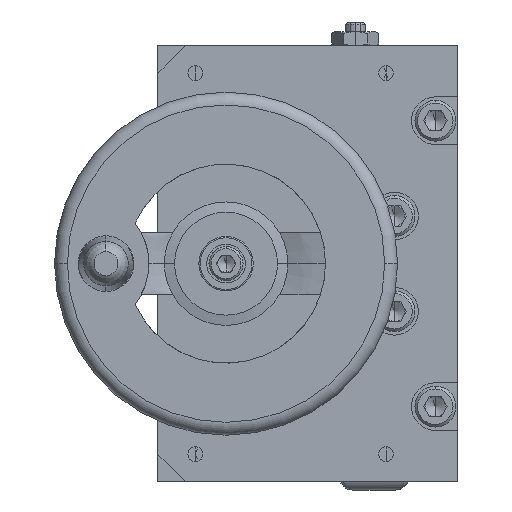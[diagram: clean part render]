
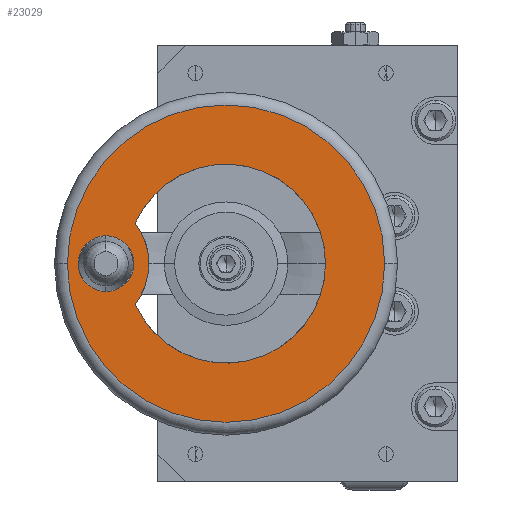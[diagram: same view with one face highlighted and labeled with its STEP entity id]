
A CAD part, left-side view. The second image highlights one B-rep face of the part: STEP entity #23029.
In plain terms, the highlighted planar face has unit normal (-1, 0, 0) as drawn and (0, 1, 0) by its records, which use the part's own axes.
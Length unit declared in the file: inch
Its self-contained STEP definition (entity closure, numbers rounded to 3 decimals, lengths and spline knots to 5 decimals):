
#1383 = VERTEX_POINT ( 'NONE', #7099 ) ;
#1420 = VERTEX_POINT ( 'NONE', #7135 ) ;
#1541 = VERTEX_POINT ( 'NONE', #7255 ) ;
#1542 = VERTEX_POINT ( 'NONE', #7256 ) ;
#1544 = VERTEX_POINT ( 'NONE', #7258 ) ;
#1548 = VERTEX_POINT ( 'NONE', #7262 ) ;
#1570 = VERTEX_POINT ( 'NONE', #7284 ) ;
#1683 = VERTEX_POINT ( 'NONE', #7397 ) ;
#3426 = AXIS2_PLACEMENT_3D ( 'NONE', #20801, #20798, #20806 ) ;
#4627 = EDGE_CURVE ( 'NONE', #1420, #1383, #5567, .T. ) ;
#4656 = EDGE_CURVE ( 'NONE', #1541, #1542, #5513, .T. ) ;
#4660 = EDGE_CURVE ( 'NONE', #1544, #1548, #5507, .T. ) ;
#4688 = EDGE_CURVE ( 'NONE', #1683, #1570, #5435, .T. ) ;
#4693 = EDGE_CURVE ( 'NONE', #1570, #1548, #5456, .T. ) ;
#4705 = EDGE_CURVE ( 'NONE', #1683, #1544, #5455, .T. ) ;
#4706 = EDGE_CURVE ( 'NONE', #1383, #1420, #5545, .T. ) ;
#4707 = EDGE_CURVE ( 'NONE', #1542, #1541, #5735, .T. ) ;
#5435 = CIRCLE ( 'NONE', #5452, 0.61417 ) ;
#5452 = AXIS2_PLACEMENT_3D ( 'NONE', #15317, #15318, #15319 ) ;
#5455 = CIRCLE ( 'NONE', #5593, 0.91339 ) ;
#5456 = CIRCLE ( 'NONE', #5465, 0.61417 ) ;
#5465 = AXIS2_PLACEMENT_3D ( 'NONE', #15332, #15333, #15334 ) ;
#5496 = AXIS2_PLACEMENT_3D ( 'NONE', #14497, #14498, #14499 ) ;
#5507 = CIRCLE ( 'NONE', #5496, 0.91339 ) ;
#5510 = AXIS2_PLACEMENT_3D ( 'NONE', #14485, #14486, #14487 ) ;
#5513 = CIRCLE ( 'NONE', #5510, 1.45669 ) ;
#5545 = CIRCLE ( 'NONE', #5734, 0.25591 ) ;
#5564 = AXIS2_PLACEMENT_3D ( 'NONE', #14369, #14370, #14371 ) ;
#5567 = CIRCLE ( 'NONE', #5564, 0.25591 ) ;
#5593 = AXIS2_PLACEMENT_3D ( 'NONE', #15387, #15388, #15389 ) ;
#5676 = AXIS2_PLACEMENT_3D ( 'NONE', #15393, #15394, #15395 ) ;
#5734 = AXIS2_PLACEMENT_3D ( 'NONE', #15390, #15391, #15392 ) ;
#5735 = CIRCLE ( 'NONE', #5676, 1.45669 ) ;
#6743 = EDGE_LOOP ( 'NONE', ( #22364, #21400 ) ) ;
#6746 = EDGE_LOOP ( 'NONE', ( #21876, #22436, #22432, #22425 ) ) ;
#6751 = EDGE_LOOP ( 'NONE', ( #21663, #21745 ) ) ;
#7099 = CARTESIAN_POINT ( 'NONE',  ( 0.25591, 1.41732, -1.10236 ) ) ;
#7135 = CARTESIAN_POINT ( 'NONE',  ( -0.25591, 1.41732, -1.10236 ) ) ;
#7255 = CARTESIAN_POINT ( 'NONE',  ( 0., 1.41732, 1.45669 ) ) ;
#7256 = CARTESIAN_POINT ( 'NONE',  ( 0., 1.41732, -1.45669 ) ) ;
#7258 = CARTESIAN_POINT ( 'NONE',  ( 0., 1.41732, 0.91339 ) ) ;
#7262 = CARTESIAN_POINT ( 'NONE',  ( 0.37205, 1.41732, -0.83418 ) ) ;
#7284 = CARTESIAN_POINT ( 'NONE',  ( 0., 1.41732, -0.70866 ) ) ;
#7397 = CARTESIAN_POINT ( 'NONE',  ( -0.37205, 1.41732, -0.83418 ) ) ;
#14369 = CARTESIAN_POINT ( 'NONE',  ( 0., 1.41732, -1.10236 ) ) ;
#14370 = DIRECTION ( 'NONE',  ( 0., 1., 0. ) ) ;
#14371 = DIRECTION ( 'NONE',  ( 0., 0., 1. ) ) ;
#14485 = CARTESIAN_POINT ( 'NONE',  ( 0., 1.41732, 0. ) ) ;
#14486 = DIRECTION ( 'NONE',  ( 0., 1., 0. ) ) ;
#14487 = DIRECTION ( 'NONE',  ( 0., 0., 1. ) ) ;
#14497 = CARTESIAN_POINT ( 'NONE',  ( 0., 1.41732, 0. ) ) ;
#14498 = DIRECTION ( 'NONE',  ( 0., 1., 0. ) ) ;
#14499 = DIRECTION ( 'NONE',  ( 0., 0., 1. ) ) ;
#15317 = CARTESIAN_POINT ( 'NONE',  ( 0., 1.41732, -1.32283 ) ) ;
#15318 = DIRECTION ( 'NONE',  ( 0., 1., 0. ) ) ;
#15319 = DIRECTION ( 'NONE',  ( 1., 0., 0. ) ) ;
#15332 = CARTESIAN_POINT ( 'NONE',  ( 0., 1.41732, -1.32283 ) ) ;
#15333 = DIRECTION ( 'NONE',  ( 0., 1., 0. ) ) ;
#15334 = DIRECTION ( 'NONE',  ( 1., 0., 0. ) ) ;
#15387 = CARTESIAN_POINT ( 'NONE',  ( 0., 1.41732, 0. ) ) ;
#15388 = DIRECTION ( 'NONE',  ( 0., 1., 0. ) ) ;
#15389 = DIRECTION ( 'NONE',  ( 0., 0., 1. ) ) ;
#15390 = CARTESIAN_POINT ( 'NONE',  ( 0., 1.41732, -1.10236 ) ) ;
#15391 = DIRECTION ( 'NONE',  ( 0., 1., 0. ) ) ;
#15392 = DIRECTION ( 'NONE',  ( 0., 0., 1. ) ) ;
#15393 = CARTESIAN_POINT ( 'NONE',  ( 0., 1.41732, 0. ) ) ;
#15394 = DIRECTION ( 'NONE',  ( 0., 1., 0. ) ) ;
#15395 = DIRECTION ( 'NONE',  ( 0., 0., 1. ) ) ;
#20795 = FACE_BOUND ( 'NONE', #6743, .T. ) ;
#20798 = DIRECTION ( 'NONE',  ( 0., 1., 0. ) ) ;
#20801 = CARTESIAN_POINT ( 'NONE',  ( 0.91339, 1.41732, 0. ) ) ;
#20802 = FACE_BOUND ( 'NONE', #6746, .T. ) ;
#20804 = FACE_OUTER_BOUND ( 'NONE', #6751, .T. ) ;
#20805 = PLANE ( 'NONE',  #3426 ) ;
#20806 = DIRECTION ( 'NONE',  ( 0., 0., 1. ) ) ;
#21400 = ORIENTED_EDGE ( 'NONE', *, *, #4706, .F. ) ;
#21663 = ORIENTED_EDGE ( 'NONE', *, *, #4656, .T. ) ;
#21745 = ORIENTED_EDGE ( 'NONE', *, *, #4707, .T. ) ;
#21876 = ORIENTED_EDGE ( 'NONE', *, *, #4688, .T. ) ;
#22364 = ORIENTED_EDGE ( 'NONE', *, *, #4627, .F. ) ;
#22425 = ORIENTED_EDGE ( 'NONE', *, *, #4705, .F. ) ;
#22432 = ORIENTED_EDGE ( 'NONE', *, *, #4660, .F. ) ;
#22436 = ORIENTED_EDGE ( 'NONE', *, *, #4693, .T. ) ;
#23029 = ADVANCED_FACE ( 'NONE', ( #20795, #20802, #20804 ), #20805, .T. ) ;
